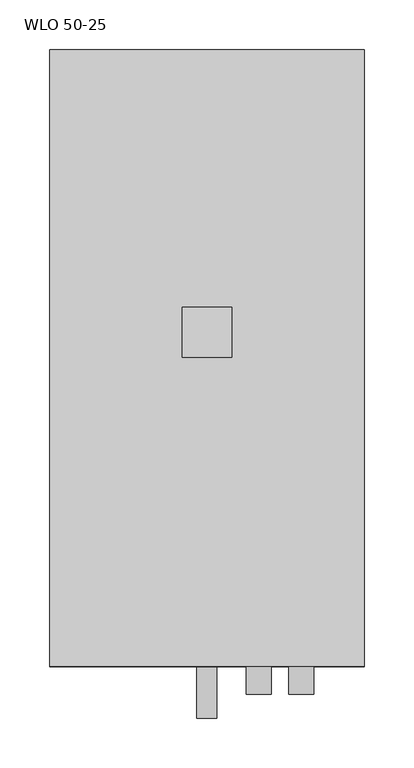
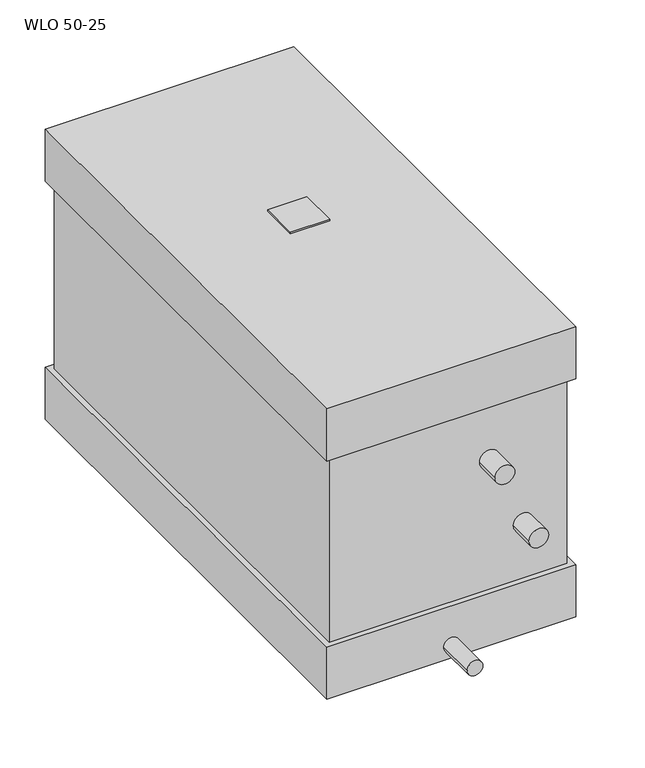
"""IFC4 building model written with IfcOpenShell, lengths in millimetres: proxy geometry, KORF_Воздухоохладитель_Водяной_WLO_Левый : WLO 50-25."""

from ifc_helpers import new_model, si_unit, point, frame, frame_2d, origin, place, context, project, spatial, polyline, circle_curve, trimmed, segment, composite_curve, outline, extrude, faceted_brep, source, transform, mapped, element, save


def wlo_50_25_8c046ca8(model_context):
    return source(origin(), model_context, "Body", "SolidModel", [
        extrude(outline(polyline([(133.0, -25.0), (133.0, 25.0), (183.0, 25.0), (183.0, -25.0), (133.0, -25.0)])), frame((0.0, 0.0, 195.0), z_axis=(0.0, 0.0, 1.0), x_axis=(1.0, 0.0, 0.0)), (0.0, 0.0, 1.0), 2.0),
        faceted_brep([(316.0, -336.0, 195.0), (316.0, -336.0, 125.0), (316.0, 284.0, 125.0), (316.0, 284.0, 195.0), (316.0, -336.0, -125.0), (316.0, -336.0, -195.0), (316.0, 284.0, -195.0), (316.0, 284.0, -125.0), (0.0, -336.0, 195.0), (0.0, 284.0, 195.0), (0.0, 284.0, 125.0), (0.0, -336.0, 125.0), (0.0, -336.0, -125.0), (0.0, 284.0, -125.0), (0.0, 284.0, -195.0), (0.0, -336.0, -195.0), (7.0, -329.0, 125.0), (309.0, -329.0, 125.0), (309.0, -250.0, 125.0), (309.0, 250.0, 125.0), (309.0, 277.0, 125.0), (7.0, 277.0, 125.0), (7.0, 250.0, 125.0), (7.0, -250.0, 125.0), (309.0, -329.0, -125.0), (7.0, -329.0, -125.0), (7.0, -250.0, -125.0), (7.0, 250.0, -125.0), (7.0, 277.0, -125.0), (309.0, 277.0, -125.0), (309.0, 250.0, -125.0), (309.0, -250.0, -125.0)], [[[0, 1, 2, 3]], [[4, 5, 6, 7]], [[8, 9, 10, 11]], [[12, 13, 14, 15]], [[1, 0, 8, 11]], [[2, 1, 11, 10], [16, 17, 18, 19, 20, 21, 22, 23]], [[3, 2, 10, 9]], [[0, 3, 9, 8]], [[5, 4, 12, 15]], [[6, 5, 15, 14]], [[7, 6, 14, 13]], [[4, 7, 13, 12], [24, 25, 26, 27, 28, 29, 30, 31]], [[17, 24, 31, 30, 29, 20, 19, 18]], [[21, 28, 27, 26, 25, 16, 23, 22]], [[24, 17, 16, 25]], [[20, 29, 28, 21]]]),
        extrude(outline(composite_curve([segment(trimmed(circle_curve(frame_2d((50.0, 210.0)), 12.5), [point((50.0, 197.5))], [point((50.0, 222.5))], False, "CARTESIAN"), True, "CONTINUOUS"), segment(trimmed(circle_curve(frame_2d((50.0, 210.0)), 12.5), [point((50.0, 222.5))], [point((50.0, 197.5))], False, "CARTESIAN"), True, "CONTINUOUS")], self_intersect=False)), frame((0.0, -364.0, 0.0), z_axis=(0.0, 1.0, 0.0), x_axis=(0.0, 0.0, 1.0)), (0.0, 0.0, 1.0), 35.0),
        extrude(outline(composite_curve([segment(trimmed(circle_curve(frame_2d((-50.0, 253.0)), 12.5), [point((-50.0, 240.5))], [point((-50.0, 265.5))], False, "CARTESIAN"), True, "CONTINUOUS"), segment(trimmed(circle_curve(frame_2d((-50.0, 253.0)), 12.5), [point((-50.0, 265.5))], [point((-50.0, 240.5))], False, "CARTESIAN"), True, "CONTINUOUS")], self_intersect=False)), frame((0.0, -364.0, 0.0), z_axis=(0.0, 1.0, 0.0), x_axis=(0.0, 0.0, 1.0)), (0.0, 0.0, 1.0), 35.0),
        extrude(outline(composite_curve([segment(trimmed(circle_curve(frame_2d((-177.0, 158.0)), 10.0), [point((-177.0, 148.0))], [point((-177.0, 168.0))], False, "CARTESIAN"), True, "CONTINUOUS"), segment(trimmed(circle_curve(frame_2d((-177.0, 158.0)), 10.0), [point((-177.0, 168.0))], [point((-177.0, 148.0))], False, "CARTESIAN"), True, "CONTINUOUS")], self_intersect=False)), frame((0.0, -388.0, 0.0), z_axis=(0.0, 1.0, 0.0), x_axis=(0.0, 0.0, 1.0)), (0.0, 0.0, 1.0), 52.0),
    ])


if __name__ == "__main__":
    model = new_model("IFC4")
    model_context = context("Model", 3, world=origin())
    ifc_project = project(units=[si_unit("LENGTHUNIT", "METRE", prefix="MILLI")], contexts=[model_context])
    site = spatial("IfcSite", under=ifc_project)
    building = spatial("IfcBuilding", under=site)
    placement = place(None, origin())
    wlo_50_25_shape = wlo_50_25_8c046ca8(model_context)
    element("IfcBuildingElementProxy", 1, Name="KORF_Воздухоохладитель_Водяной_WLO_Левый : WLO 50-25", ObjectType="KORF_Воздухоохладитель_Водяной_WLO_Левый : WLO 50-25", at=placement, inside=building, context=model_context, shape_type="MappedRepresentation", body=[
        mapped(wlo_50_25_shape, transform((0.0, 0.0, 0.0), x_axis=(1.0, 0.0, 0.0), y_axis=(0.0, 1.0, 0.0), z_axis=(0.0, 0.0, 1.0))),
    ])
    save(model, "model.ifc")
